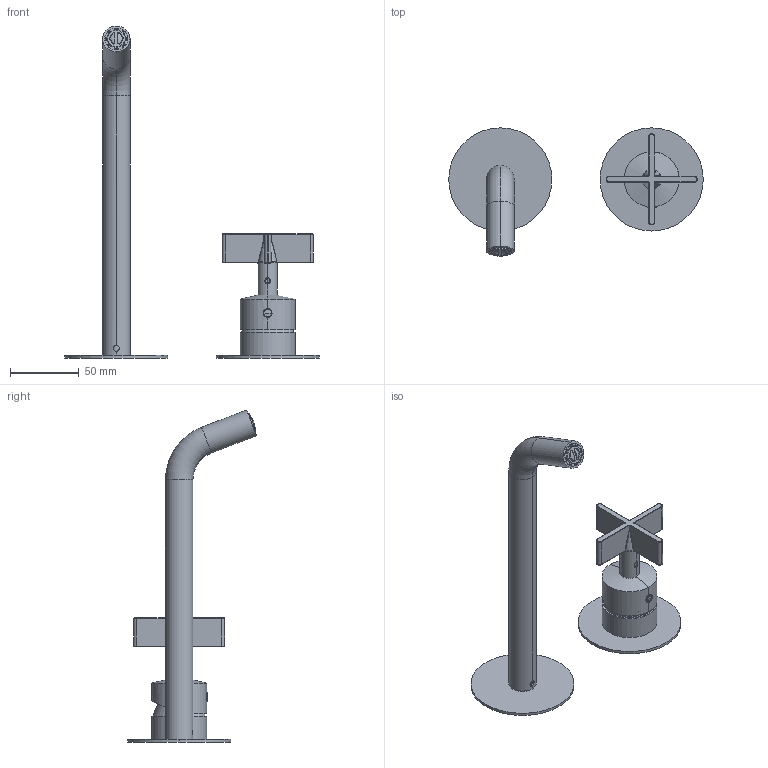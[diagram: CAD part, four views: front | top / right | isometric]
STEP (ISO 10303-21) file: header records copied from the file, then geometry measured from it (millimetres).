
FILE_DESCRIPTION((''),'2;1');
FILE_NAME('39537A_SW0001','2024-12-05T09:51:19',('carloff'),(''),'CREO PARAMETRIC BY PTC INC, 2022014','CREO PARAMETRIC BY PTC INC, 2022014','');
FILE_SCHEMA(('CONFIG_CONTROL_DESIGN'));
Products named in the file (1): 39537A_SW0001
Bounding box: 185 x 93.65 x 241.34 mm (x, y, z)
Volume: 124927.2 mm3; surface area: 78199.5 mm2
Topology: 3 solids, 3 shells, 1958 faces, 5671 edges, 3731 vertices
Faces by surface type: plane 1392, cylinder 220, torus 152, bspline 124, cone 59, sphere 8, extrusion 3
Entity records: 89392 total; most frequent: CARTESIAN_POINT 41976, ORIENTED_EDGE 11322, DIRECTION 7607, EDGE_CURVE 5661, VERTEX_POINT 3731, AXIS2_PLACEMENT_3D 2692, B_SPLINE_CURVE_WITH_KNOTS 2583, EDGE_LOOP 2296
